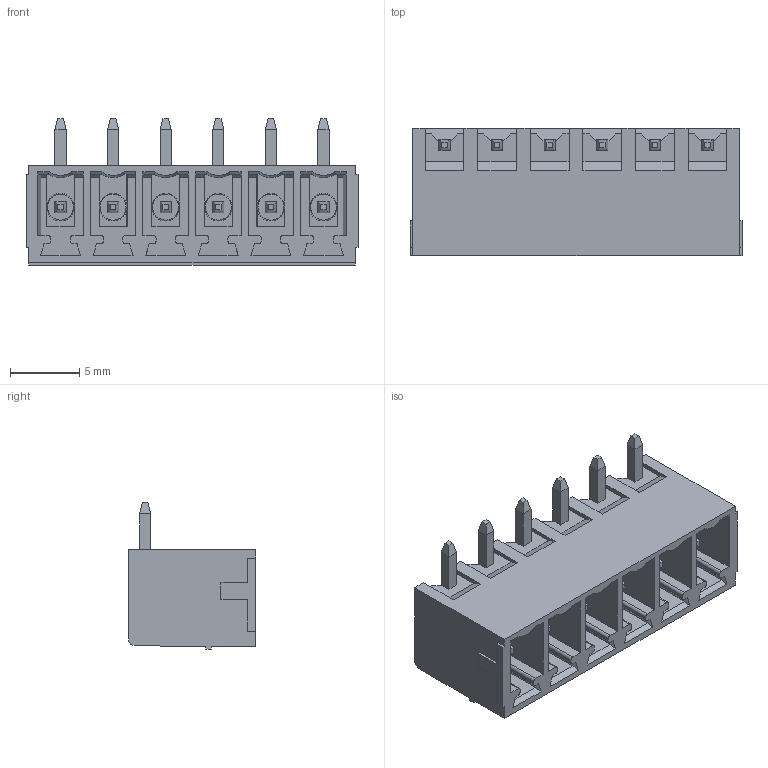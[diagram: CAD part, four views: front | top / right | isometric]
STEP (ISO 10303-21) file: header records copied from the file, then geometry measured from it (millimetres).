
FILE_DESCRIPTION(('FreeCAD Model'),'2;1');
FILE_NAME('Open CASCADE Shape Model','2023-05-24T16:15:21',('Author'),( ''),'Open CASCADE STEP processor 7.6','FreeCAD','Unknown');
FILE_SCHEMA(('AUTOMOTIVE_DESIGN { 1 0 10303 214 1 1 1 1 }'));
Length unit declared in the file: millimetre
Products named in the file (1): BR7MN2-06
Bounding box: 24.05 x 9.2 x 10.6 mm (x, y, z)
Volume: 741.7 mm3; surface area: 2222.2 mm2
Topology: 1 solids, 7 shells, 531 faces, 1365 edges, 860 vertices
Faces by surface type: plane 464, cylinder 37, cone 18, sphere 12
Entity records: 34053 total; most frequent: CARTESIAN_POINT 6465, DIRECTION 5164, LINE 3767, VECTOR 3767, ORIENTED_EDGE 2706, PCURVE 2706, DEFINITIONAL_REPRESENTATION 2706, EDGE_CURVE 1353
